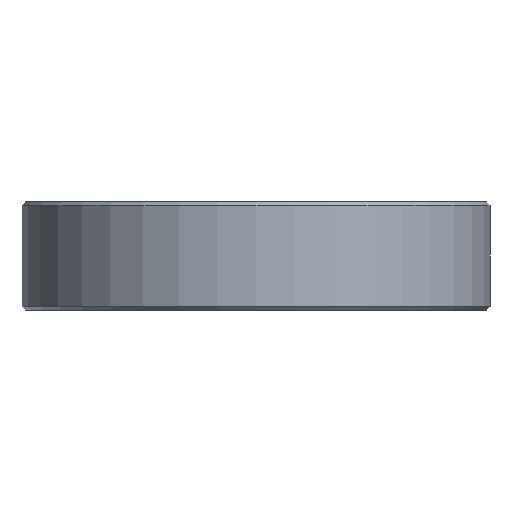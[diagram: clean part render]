
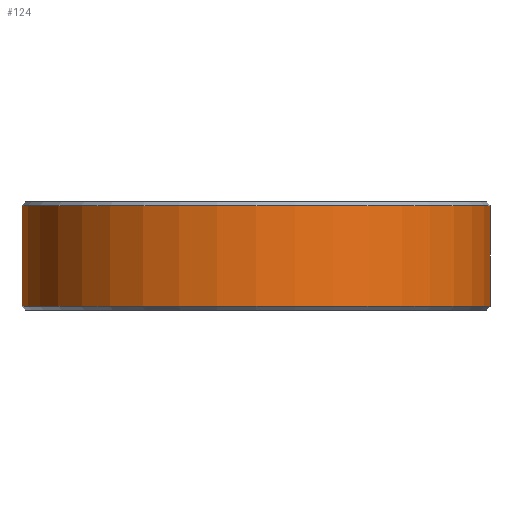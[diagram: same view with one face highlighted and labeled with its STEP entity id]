
A CAD part, front view. The second image highlights one B-rep face of the part: STEP entity #124.
In plain terms, the highlighted cylindrical face has radius 32.5 mm (diameter 65 mm), a partial arc.
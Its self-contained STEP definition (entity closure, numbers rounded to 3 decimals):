
#124 = ADVANCED_FACE( '', ( #259 ), #260, .T. );
#259 = FACE_OUTER_BOUND( '', #403, .T. );
#260 = CYLINDRICAL_SURFACE( '', #404, 32.5 );
#403 = EDGE_LOOP( '', ( #752, #753, #754, #755 ) );
#404 = AXIS2_PLACEMENT_3D( '', #756, #757, #758 );
#752 = ORIENTED_EDGE( '', *, *, #913, .T. );
#753 = ORIENTED_EDGE( '', *, *, #813, .T. );
#754 = ORIENTED_EDGE( '', *, *, #910, .F. );
#755 = ORIENTED_EDGE( '', *, *, #914, .T. );
#756 = CARTESIAN_POINT( '', ( 0., 0., 7.5 ) );
#757 = DIRECTION( '', ( 0., 0., -1. ) );
#758 = DIRECTION( '', ( 1., 0., 0. ) );
#813 = EDGE_CURVE( '', #929, #927, #930, .T. );
#910 = EDGE_CURVE( '', #1099, #927, #1100, .T. );
#913 = EDGE_CURVE( '', #1104, #929, #1105, .T. );
#914 = EDGE_CURVE( '', #1099, #1104, #1106, .F. );
#927 = VERTEX_POINT( '', #1124 );
#929 = VERTEX_POINT( '', #1129 );
#930 = LINE( '', #1130, #1131 );
#1099 = VERTEX_POINT( '', #1553 );
#1100 = CIRCLE( '', #1554, 32.5 );
#1104 = VERTEX_POINT( '', #1561 );
#1105 = CIRCLE( '', #1562, 32.5 );
#1106 = LINE( '', #1563, #1564 );
#1124 = CARTESIAN_POINT( '', ( 32.438, -2., 7. ) );
#1129 = CARTESIAN_POINT( '', ( 32.438, -2., -7. ) );
#1130 = CARTESIAN_POINT( '', ( 32.438, -2., 7.5 ) );
#1131 = VECTOR( '', #1577, 1000. );
#1553 = CARTESIAN_POINT( '', ( -32.438, -2., 7. ) );
#1554 = AXIS2_PLACEMENT_3D( '', #1730, #1731, #1732 );
#1561 = CARTESIAN_POINT( '', ( -32.438, -2., -7. ) );
#1562 = AXIS2_PLACEMENT_3D( '', #1736, #1737, #1738 );
#1563 = CARTESIAN_POINT( '', ( -32.438, -2., 7.5 ) );
#1564 = VECTOR( '', #1739, 1000. );
#1577 = DIRECTION( '', ( 0., 0., 1. ) );
#1730 = CARTESIAN_POINT( '', ( 0., 0., 7. ) );
#1731 = DIRECTION( '', ( 0., 0., 1. ) );
#1732 = DIRECTION( '', ( 1., 0., 0. ) );
#1736 = CARTESIAN_POINT( '', ( 0., 0., -7. ) );
#1737 = DIRECTION( '', ( 0., 0., 1. ) );
#1738 = DIRECTION( '', ( 1., 0., 0. ) );
#1739 = DIRECTION( '', ( 0., 0., 1. ) );
